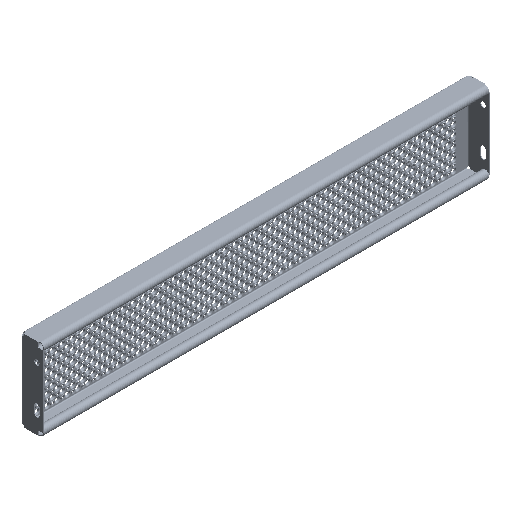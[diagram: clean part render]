
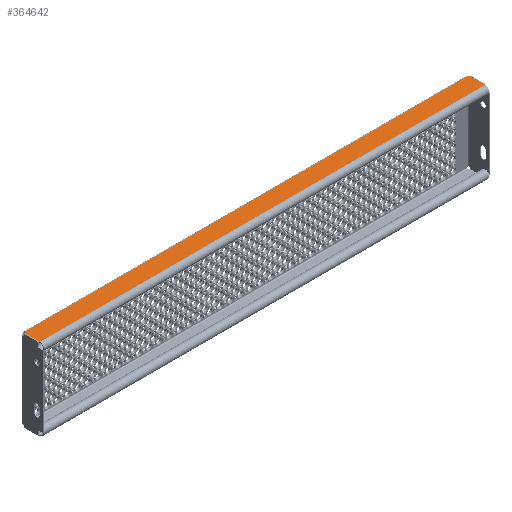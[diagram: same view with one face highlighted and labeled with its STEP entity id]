
A CAD part, isometric view. The second image highlights one B-rep face of the part: STEP entity #364642.
In plain terms, the highlighted planar face has unit normal (0, 0, 1).
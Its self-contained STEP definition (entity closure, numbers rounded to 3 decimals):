
#22777 = DIRECTION ( 'NONE',  ( 1., 0., 0. ) ) ;
#24734 = ORIENTED_EDGE ( 'NONE', *, *, #91707, .T. ) ;
#49023 = CARTESIAN_POINT ( 'NONE',  ( -549., -4., 100. ) ) ;
#52125 = ORIENTED_EDGE ( 'NONE', *, *, #177590, .T. ) ;
#59408 = DIRECTION ( 'NONE',  ( 0., 0., 1. ) ) ;
#61372 = AXIS2_PLACEMENT_3D ( 'NONE', #352662, #229793, #378982 ) ;
#77658 = CARTESIAN_POINT ( 'NONE',  ( 547.99, -7.185, 100. ) ) ;
#84805 = VECTOR ( 'NONE', #94570, 1000. ) ;
#91707 = EDGE_CURVE ( 'NONE', #126686, #91856, #363528, .T. ) ;
#91856 = VERTEX_POINT ( 'NONE', #371294 ) ;
#94570 = DIRECTION ( 'NONE',  ( 0., 1., 0. ) ) ;
#96717 = VERTEX_POINT ( 'NONE', #117241 ) ;
#100412 = EDGE_CURVE ( 'NONE', #96717, #177159, #179737, .T. ) ;
#100716 = ORIENTED_EDGE ( 'NONE', *, *, #358740, .T. ) ;
#101987 = CARTESIAN_POINT ( 'NONE',  ( -544.302, -4., 100. ) ) ;
#111648 = LINE ( 'NONE', #208222, #252137 ) ;
#112363 = VECTOR ( 'NONE', #22777, 1000. ) ;
#117241 = CARTESIAN_POINT ( 'NONE',  ( -547.99, -43.998, 100. ) ) ;
#119872 = FACE_OUTER_BOUND ( 'NONE', #375269, .T. ) ;
#125064 = ORIENTED_EDGE ( 'NONE', *, *, #355574, .T. ) ;
#126686 = VERTEX_POINT ( 'NONE', #101987 ) ;
#149624 = ORIENTED_EDGE ( 'NONE', *, *, #100412, .T. ) ;
#155073 = DIRECTION ( 'NONE',  ( 1., 0., 0. ) ) ;
#175670 = CARTESIAN_POINT ( 'NONE',  ( 549., -2.288, 100. ) ) ;
#177159 = VERTEX_POINT ( 'NONE', #217826 ) ;
#177590 = EDGE_CURVE ( 'NONE', #177159, #351193, #364517, .T. ) ;
#179737 = LINE ( 'NONE', #217424, #249962 ) ;
#180045 = EDGE_CURVE ( 'NONE', #126686, #337701, #324978, .T. ) ;
#208222 = CARTESIAN_POINT ( 'NONE',  ( -547.99, -7.185, 100. ) ) ;
#208480 = CARTESIAN_POINT ( 'NONE',  ( -549., 195.712, 100. ) ) ;
#215894 = AXIS2_PLACEMENT_3D ( 'NONE', #175670, #298529, #395168 ) ;
#217424 = CARTESIAN_POINT ( 'NONE',  ( -547.99, -43.998, 100. ) ) ;
#217826 = CARTESIAN_POINT ( 'NONE',  ( 547.99, -43.998, 100. ) ) ;
#229793 = DIRECTION ( 'NONE',  ( 0., 0., -1. ) ) ;
#241615 = CARTESIAN_POINT ( 'NONE',  ( 547.99, -7.185, 100. ) ) ;
#242670 = PLANE ( 'NONE',  #288882 ) ;
#249962 = VECTOR ( 'NONE', #155073, 1000. ) ;
#252137 = VECTOR ( 'NONE', #331096, 1000. ) ;
#288882 = AXIS2_PLACEMENT_3D ( 'NONE', #208480, #59408, #297176 ) ;
#297176 = DIRECTION ( 'NONE',  ( 0., -1., 0. ) ) ;
#298529 = DIRECTION ( 'NONE',  ( 0., 0., -1. ) ) ;
#313139 = CARTESIAN_POINT ( 'NONE',  ( 544.302, -4., 100. ) ) ;
#324978 = LINE ( 'NONE', #49023, #112363 ) ;
#331096 = DIRECTION ( 'NONE',  ( 0., -1., 0. ) ) ;
#335626 = ORIENTED_EDGE ( 'NONE', *, *, #180045, .F. ) ;
#337701 = VERTEX_POINT ( 'NONE', #313139 ) ;
#351193 = VERTEX_POINT ( 'NONE', #77658 ) ;
#352662 = CARTESIAN_POINT ( 'NONE',  ( -549., -2.288, 100. ) ) ;
#355574 = EDGE_CURVE ( 'NONE', #91856, #96717, #111648, .T. ) ;
#358740 = EDGE_CURVE ( 'NONE', #351193, #337701, #383280, .T. ) ;
#363528 = CIRCLE ( 'NONE', #61372, 5. ) ;
#364517 = LINE ( 'NONE', #241615, #84805 ) ;
#364642 = ADVANCED_FACE ( 'NONE', ( #119872 ), #242670, .T. ) ;
#371294 = CARTESIAN_POINT ( 'NONE',  ( -547.99, -7.185, 100. ) ) ;
#375269 = EDGE_LOOP ( 'NONE', ( #149624, #52125, #100716, #335626, #24734, #125064 ) ) ;
#378982 = DIRECTION ( 'NONE',  ( 0., -1., 0. ) ) ;
#383280 = CIRCLE ( 'NONE', #215894, 5. ) ;
#395168 = DIRECTION ( 'NONE',  ( 0., -1., 0. ) ) ;
